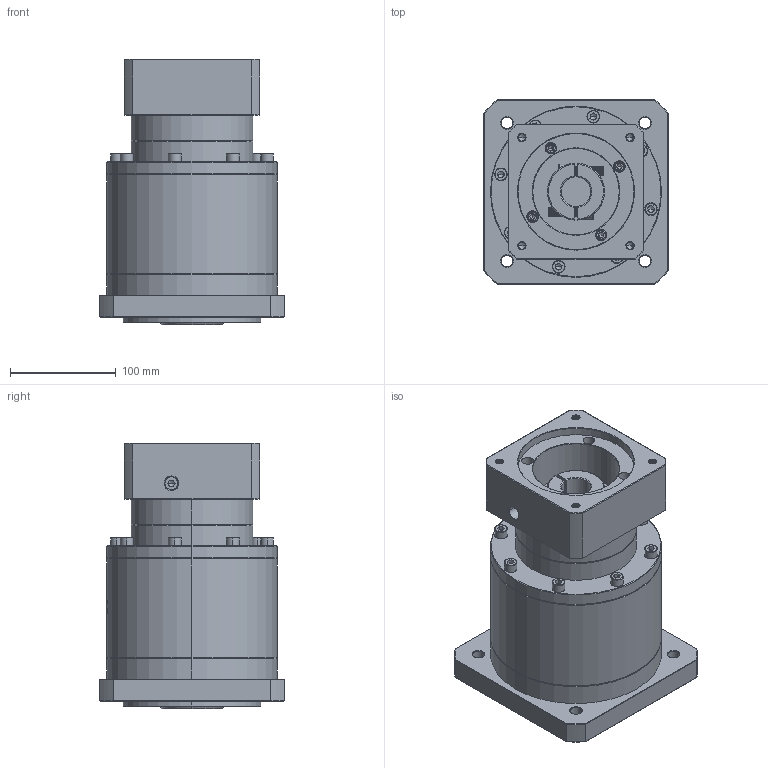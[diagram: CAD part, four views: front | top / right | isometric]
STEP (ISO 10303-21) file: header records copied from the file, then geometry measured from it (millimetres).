
FILE_DESCRIPTION (( 'STEP AP214' ), '1' );
FILE_NAME ('ZF160-K35-L3-28-110-145-M8.step', '2023-03-22T04:00:48', ( '' ), ( '' ), 'SwSTEP 2.0', 'SolidWorks 2016', '' );
FILE_SCHEMA (( 'AUTOMOTIVE_DESIGN' ));
Length unit declared in the file: millimetre
Products named in the file (1): ZF160-K35-L3-28-110-145-M8
Bounding box: 175 x 175 x 251.7 mm (x, y, z)
Volume: 4247071.9 mm3; surface area: 289744.2 mm2
Topology: 6 solids, 6 shells, 1793 faces, 4503 edges, 2834 vertices
Faces by surface type: plane 738, cylinder 445, cone 349, bspline 205, torus 56
Entity records: 92003 total; most frequent: CARTESIAN_POINT 31449, ORIENTED_EDGE 8902, DIRECTION 7870, EDGE_CURVE 4451, VERTEX_POINT 2834, AXIS2_PLACEMENT_3D 2718, LINE 2434, VECTOR 2434
